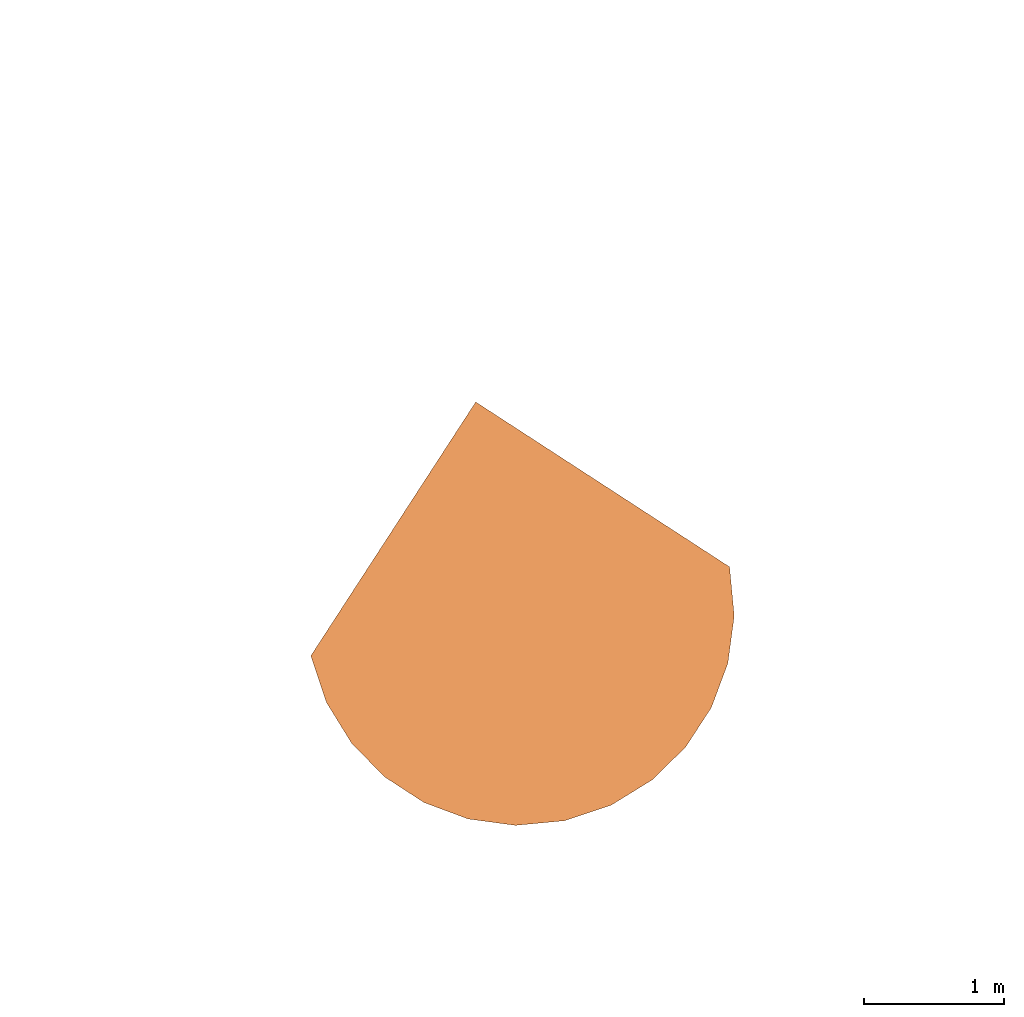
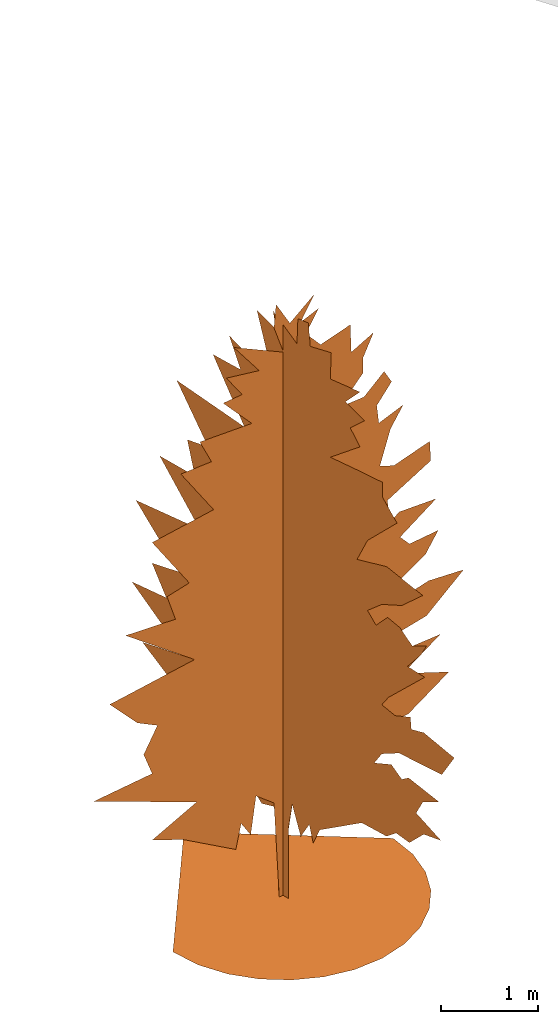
# One storey, part 13 of 17: 1 proxy.
"""IFC2X3 building model written with IfcOpenShell, lengths in centimetres."""

from ifc_helpers import new_model, entity, si_unit, converted_unit, derived_unit, direction, frame, origin, place, context, subcontext, project, spatial, face_set, surface_model, source, transform, mapped, material, type_object, type_shapes, element, save


model = new_model("IFC2X3")

# Units and contexts
model_context = context("Model", 3, precision=0.001, world=origin(), true_north=direction((6.12303176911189e-17, 1.0)))
body_context = subcontext(model_context, "Body", "Model", "MODEL_VIEW")
ifc_project = project(units=[si_unit("LENGTHUNIT", "METRE", prefix="CENTI"), si_unit("AREAUNIT", "SQUARE_METRE"), si_unit("VOLUMEUNIT", "CUBIC_METRE"), converted_unit("PLANEANGLEUNIT", "DEGREE", entity("IfcRatioMeasure", 0.0174532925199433), si_unit("PLANEANGLEUNIT", "RADIAN"), dimensions=[0, 0, 0, 0, 0, 0, 0]), si_unit("MASSUNIT", "GRAM", prefix="KILO"), derived_unit("MASSDENSITYUNIT", [(si_unit("MASSUNIT", "GRAM", prefix="KILO"), 1), (si_unit("LENGTHUNIT", "METRE"), -3)]), derived_unit("IONCONCENTRATIONUNIT", [(si_unit("MASSUNIT", "GRAM", prefix="KILO"), 1), (si_unit("LENGTHUNIT", "METRE"), -3)]), derived_unit("MOMENTOFINERTIAUNIT", [(si_unit("LENGTHUNIT", "METRE"), 4)]), si_unit("TIMEUNIT", "SECOND"), si_unit("FREQUENCYUNIT", "HERTZ"), si_unit("THERMODYNAMICTEMPERATUREUNIT", "DEGREE_CELSIUS"), derived_unit("THERMALTRANSMITTANCEUNIT", [(si_unit("MASSUNIT", "GRAM", prefix="KILO"), 1), (si_unit("THERMODYNAMICTEMPERATUREUNIT", "KELVIN"), -1), (si_unit("TIMEUNIT", "SECOND"), -3)]), derived_unit("THERMALCONDUCTANCEUNIT", [(si_unit("MASSUNIT", "GRAM", prefix="KILO"), 1), (si_unit("THERMODYNAMICTEMPERATUREUNIT", "KELVIN"), -1), (si_unit("TIMEUNIT", "SECOND"), -3), (si_unit("LENGTHUNIT", "METRE"), 1)]), derived_unit("VOLUMETRICFLOWRATEUNIT", [(si_unit("LENGTHUNIT", "METRE"), 3), (si_unit("TIMEUNIT", "SECOND"), -1)]), derived_unit("MASSFLOWRATEUNIT", [(si_unit("MASSUNIT", "GRAM", prefix="KILO"), 1), (si_unit("TIMEUNIT", "SECOND"), -1)]), derived_unit("ROTATIONALFREQUENCYUNIT", [(si_unit("TIMEUNIT", "SECOND"), -1)]), si_unit("ELECTRICCURRENTUNIT", "AMPERE"), si_unit("ELECTRICVOLTAGEUNIT", "VOLT"), si_unit("POWERUNIT", "WATT"), si_unit("FORCEUNIT", "NEWTON", prefix="KILO"), si_unit("ILLUMINANCEUNIT", "LUX"), si_unit("LUMINOUSFLUXUNIT", "LUMEN"), si_unit("LUMINOUSINTENSITYUNIT", "CANDELA"), derived_unit("USERDEFINED", [(si_unit("MASSUNIT", "GRAM", prefix="KILO"), -1), (si_unit("LENGTHUNIT", "METRE"), -2), (si_unit("TIMEUNIT", "SECOND"), 3), (si_unit("LUMINOUSFLUXUNIT", "LUMEN"), 1)]), derived_unit("USERDEFINED", [(si_unit("MASSUNIT", "GRAM", prefix="KILO"), 1), (si_unit("TIMEUNIT", "SECOND"), -3), (si_unit("LENGTHUNIT", "METRE"), 3), (si_unit("ELECTRICCURRENTUNIT", "AMPERE"), -2)]), derived_unit("SOUNDPOWERUNIT", [(si_unit("MASSUNIT", "GRAM", prefix="KILO"), 1), (si_unit("TIMEUNIT", "SECOND"), -3), (si_unit("LENGTHUNIT", "METRE"), 2)]), derived_unit("SOUNDPRESSUREUNIT", [(si_unit("MASSUNIT", "GRAM", prefix="KILO"), 1), (si_unit("LENGTHUNIT", "METRE"), -1), (si_unit("TIMEUNIT", "SECOND"), -2)]), derived_unit("LINEARVELOCITYUNIT", [(si_unit("LENGTHUNIT", "METRE"), 1), (si_unit("TIMEUNIT", "SECOND"), -1)]), si_unit("PRESSUREUNIT", "PASCAL"), derived_unit("USERDEFINED", [(si_unit("MASSUNIT", "GRAM", prefix="KILO"), 1), (si_unit("LENGTHUNIT", "METRE"), -2), (si_unit("TIMEUNIT", "SECOND"), -2)]), derived_unit("LINEARFORCEUNIT", [(si_unit("MASSUNIT", "GRAM", prefix="KILO"), 1), (si_unit("TIMEUNIT", "SECOND"), -2)]), derived_unit("PLANARFORCEUNIT", [(si_unit("MASSUNIT", "GRAM", prefix="KILO"), 1), (si_unit("LENGTHUNIT", "METRE"), -1), (si_unit("TIMEUNIT", "SECOND"), -2)]), derived_unit("SPECIFICHEATCAPACITYUNIT", [(si_unit("THERMODYNAMICTEMPERATUREUNIT", "KELVIN"), -1), (si_unit("LENGTHUNIT", "METRE"), 2), (si_unit("TIMEUNIT", "SECOND"), -2)]), derived_unit("HEATINGVALUEUNIT", [(si_unit("LENGTHUNIT", "METRE"), 2), (si_unit("TIMEUNIT", "SECOND"), -2)]), derived_unit("VAPORPERMEABILITYUNIT", [(si_unit("LENGTHUNIT", "METRE"), -1), (si_unit("TIMEUNIT", "SECOND"), 1)]), derived_unit("DYNAMICVISCOSITYUNIT", [(si_unit("MASSUNIT", "GRAM", prefix="KILO"), 1), (si_unit("TIMEUNIT", "SECOND"), -1), (si_unit("LENGTHUNIT", "METRE"), -1)]), derived_unit("THERMALEXPANSIONCOEFFICIENTUNIT", [(si_unit("THERMODYNAMICTEMPERATUREUNIT", "KELVIN"), -1)]), derived_unit("MODULUSOFELASTICITYUNIT", [(si_unit("MASSUNIT", "GRAM", prefix="KILO"), 1), (si_unit("LENGTHUNIT", "METRE"), -1), (si_unit("TIMEUNIT", "SECOND"), -2)]), derived_unit("ISOTHERMALMOISTURECAPACITYUNIT", [(si_unit("LENGTHUNIT", "METRE"), 3), (si_unit("MASSUNIT", "GRAM", prefix="KILO"), -1)]), derived_unit("MOISTUREDIFFUSIVITYUNIT", [(si_unit("TIMEUNIT", "SECOND"), -1), (si_unit("LENGTHUNIT", "METRE"), 2)])], contexts=[model_context])

# Site, building, storey
site_placement = place(None, frame((14083.8920177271, -6853.25409548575, 6900.0), z_axis=(0.0, 0.0, 1.0), x_axis=(0.978188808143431, 0.207717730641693, 0.0)))
site = spatial("IfcSite", under=ifc_project, at=site_placement, Name="Surface", CompositionType="ELEMENT")
building_placement = place(site_placement, origin())
building = spatial("IfcBuilding", under=site, at=building_placement, CompositionType="ELEMENT")
storey_placement = place(building_placement, origin())
storey = spatial("IfcBuildingStorey", under=building, at=storey_placement, Name="_Rez de chaussée Séjour", CompositionType="ELEMENT", Elevation=2.07727662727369e-10)

# Proxy
ifc_material = material(Name="<Unnamed>")
building_element_proxy_type = type_object("IfcBuildingElementProxyType", Name="PLANTE- Conifères divers:Pin en tige remontée_ Petit", PredefinedType="NOTDEFINED", material=ifc_material)
shared_shape = source(origin(), body_context, "Body", "SurfaceModel", [
    surface_model("IfcFaceBasedSurfaceModel", [(153.210415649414, 1.33923548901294e-05, 1.91891713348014e-05), (0.019647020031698, 153.190751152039, 1.91891713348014e-05), (-153.171086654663, 0.0, 1.91891713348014e-05), (149.160720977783, -35.1012767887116, 1.91891713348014e-05), (-149.121391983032, -35.1012767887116, 1.91891713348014e-05), (137.626643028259, -67.3359916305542, 1.91891713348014e-05), (-137.587314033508, -67.3359916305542, 1.91891713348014e-05), (-119.492931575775, -95.7810140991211, 1.91891713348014e-05), (119.532260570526, -95.7810140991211, 1.91891713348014e-05), (95.8006785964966, -119.512596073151, 1.91891713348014e-05), (-95.7613496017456, -119.512596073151, 1.91891713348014e-05), (-67.3163271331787, -137.606978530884, 1.91891713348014e-05), (-35.0816086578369, -149.141056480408, 1.91891713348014e-05), (0.0196738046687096, -153.190751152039, 1.91891713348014e-05), (35.1209449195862, -149.141056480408, 1.91891713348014e-05), (67.3556561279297, -137.606978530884, 1.91891713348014e-05), (9.49189337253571, -4.27712833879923e-05, 717.584920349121), (43.3818905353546, -4.40009734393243e-05, 738.213079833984), (24.2266553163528, -4.24200324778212e-05, 711.691210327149), (-120.174183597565, -1.03634767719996e-05, 173.870448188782), (-263.101789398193, -1.44034799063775e-05, 241.650511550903), (-182.060486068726, -1.42278241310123e-05, 238.703627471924), (-33.2391084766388, -4.04000330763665e-05, 677.800546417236), (-68.6025785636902, -4.31225342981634e-05, 723.47868850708), (0.650998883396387, -4.0839094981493e-05, 685.166201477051), (-123.121365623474, -2.11661107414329e-05, 355.109661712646), (-218.897380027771, -2.56452390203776e-05, 430.256586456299), (-149.643889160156, -2.49426453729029e-05, 418.469079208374), (164.206982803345, -1.37886981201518e-05, 231.336126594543), (218.725777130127, -1.35252296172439e-05, 226.915800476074), (170.101056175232, -1.21200094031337e-05, 203.340161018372), (161.260098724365, -2.43278627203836e-05, 408.153458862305), (212.832023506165, -2.38887072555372e-05, 400.784693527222), (162.733540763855, -2.23956743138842e-05, 375.737792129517), (-12.6103113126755, -4.3034723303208e-05, 722.003720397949), (-9.66334093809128, -4.47034717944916e-05, 750.000616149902), (133.26414768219, -3.17931487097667e-05, 533.400406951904), (167.154172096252, -3.22322140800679e-05, 540.766062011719), (149.472286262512, -3.09148065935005e-05, 518.662934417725), (49.275644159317, -4.27712833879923e-05, 717.584920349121), (31.5940671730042, -4.13659713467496e-05, 694.009905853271), (-56.8147515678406, -3.92581574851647e-05, 658.644273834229), (-78.91696352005, -4.11025314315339e-05, 689.588024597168), (94.95349193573, -3.82044047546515e-05, 640.963027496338), (125.89664680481, -3.88190921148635e-05, 651.278618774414), (111.161942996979, -3.73259690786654e-05, 626.228636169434), (-139.329504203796, -8.08000626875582e-06, 135.560112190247), (-182.060486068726, -9.22175711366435e-06, 154.715120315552), (-37.6594236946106, -8.51913141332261e-06, 142.927307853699), (-45.0269318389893, -5.79653576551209e-06, 97.2494491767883), (-58.2881899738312, -7.02609933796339e-06, 117.878219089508), (202.517638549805, -1.80043587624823e-05, 302.063044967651), (251.142374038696, -1.7477420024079e-05, 293.222102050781), (199.570449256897, -1.54574188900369e-05, 259.332077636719), (-43.5534934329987, -3.67112782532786e-05, 615.912986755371), (-83.3372751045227, -3.93462803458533e-05, 660.119300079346), (37.4878244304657, -6.41131755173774e-06, 107.563834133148), (28.6470958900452, -5.00609777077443e-06, 83.9881946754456), (13.9123030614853, -6.76263040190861e-06, 113.457900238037), (-202.688936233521, -1.86191396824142e-05, 312.377444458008), (-240.99959197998, -2.10782668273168e-05, 353.634664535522), (183.362310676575, -1.15930403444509e-05, 194.499218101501), (230.513604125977, -1.03634767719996e-05, 173.870448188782), (174.521367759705, -8.78263196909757e-06, 147.3479246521), (-96.5985368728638, -3.17053377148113e-05, 531.925438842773), (-142.276388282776, -3.56575289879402e-05, 598.231740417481), (-99.545413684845, -3.53940925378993e-05, 593.812998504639), (175.995115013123, -2.15174240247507e-05, 361.003400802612), (215.778893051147, -2.14295801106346e-05, 359.528403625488), (198.097007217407, -2.01122038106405e-05, 337.425276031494), (-115.753864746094, -3.73259690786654e-05, 626.228636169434), (152.419155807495, -1.08026339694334e-05, 181.237963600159), (-130.488561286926, -2.71382719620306e-05, 455.303487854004), (-182.060486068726, -3.1617526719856e-05, 530.453551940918), (146.525402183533, -8.78263196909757e-06, 147.3479246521), (-174.692970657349, -1.76530454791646e-05, 296.169305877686), (149.472286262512, -2.38887072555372e-05, 400.784693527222), (140.631343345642, -1.86191396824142e-05, 312.377444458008), (-65.6553892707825, -5.26956670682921e-06, 88.4088187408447), (3.59798237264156, -3.42522156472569e-06, 57.4656711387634), (5.07142145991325, 0.0, 0.0), (-5.24289945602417, 0.0, 0.0), (-12.6103113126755, -7.28956870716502e-06, 122.298843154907), (-161.431716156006, -2.6962646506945e-05, 452.356603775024), (150.945728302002, -1.76530454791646e-05, 296.169305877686), (162.733540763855, -1.52817622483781e-05, 256.385193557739), (52.2228334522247, -3.99609711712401e-05, 670.431810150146), (93.4800498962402, -4.03122186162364e-05, 676.325520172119), (153.89291759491, -2.80165534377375e-05, 470.040989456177), (203.991080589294, -2.84556794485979e-05, 477.406644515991), (205.464522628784, -2.6962646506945e-05, 452.356603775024), (145.05197467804, -2.56452390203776e-05, 430.256586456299), (112.63537776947, -3.43400279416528e-05, 576.128612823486), (140.631343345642, -3.54819035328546e-05, 595.284827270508), (150.945728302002, -3.44278389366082e-05, 577.603580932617), (130.316958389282, -3.3198152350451e-05, 556.975421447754), (134.73758972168, -2.85434921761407e-05, 478.881641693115), (80.2187881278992, -6.32347363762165e-06, 106.090399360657), (64.0106568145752, -5.44522291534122e-06, 91.3556955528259), (-193.848298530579, -1.59843558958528e-05, 268.173020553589), (111.161942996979, -3.61844053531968e-05, 607.072363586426), (78.7453533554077, -3.45156533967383e-05, 579.078607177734), (112.63537776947, -7.37741175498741e-06, 123.772285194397), (0.0196671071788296, -199.752342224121, 418.469079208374), (0.0196671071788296, -221.854554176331, 430.256586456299), (0.0196671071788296, -213.01361125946, 414.04719795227), (0.0196671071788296, -205.646095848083, 210.707356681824), (0.0196671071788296, -243.95676612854, 195.972660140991), (0.0196671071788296, -217.433922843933, 190.078906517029), (0.0196671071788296, -193.85828338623, 249.017997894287), (0.0196671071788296, -241.009562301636, 243.123939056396), (0.0196671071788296, -215.960480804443, 229.862684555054), (0.0196671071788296, -73.0331802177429, 689.588024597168), (0.0196671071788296, -118.711031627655, 696.956819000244), (0.0196671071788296, -96.6088269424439, 673.378665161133), (0.0196671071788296, 152.40918548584, 222.495183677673), (0.0196671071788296, 233.450503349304, 274.067108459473), (0.0196671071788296, 180.405151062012, 281.434594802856), (0.0196671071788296, -56.8247327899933, 111.984465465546), (0.0196671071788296, -46.5103514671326, 89.8822607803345), (0.0196671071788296, -40.616594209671, 110.511023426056), (0.0196671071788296, 143.56824256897, 165.029505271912), (0.0196671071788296, 217.242045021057, 206.287045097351), (0.0196671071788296, 65.4738015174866, 629.17549118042), (0.0196671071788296, 83.1556946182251, 663.066155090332), (0.0196671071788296, 13.9021365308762, 639.491140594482), (0.0196671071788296, -192.384841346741, 388.997186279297), (0.0196671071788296, -218.907364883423, 388.997186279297), (0.0196671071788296, -162.915448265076, 334.478391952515), (0.0196671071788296, 10.9551961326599, 708.744297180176), (0.0196671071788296, 15.3756058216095, 729.372456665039), (0.0196671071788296, -21.4613299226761, 707.269329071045), (0.0196671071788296, 128.833546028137, 394.890954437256), (0.0196671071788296, 190.719521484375, 455.303487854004), (0.0196671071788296, 136.200727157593, 458.250371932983), (0.0196671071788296, 115.572276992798, 505.403511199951), (0.0196671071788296, 164.197012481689, 564.341076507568), (0.0196671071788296, 59.5800478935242, 559.922334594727), (0.0196671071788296, 161.25012840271, 324.165881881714), (0.0196671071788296, 227.556429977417, 380.156563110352), (0.0196671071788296, -159.968258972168, 498.034774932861), (0.0196671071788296, -215.960480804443, 490.669119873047), (0.0196671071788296, -183.543898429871, 461.200366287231), (0.0196671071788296, -27.3552397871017, 88.4088187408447), (0.0196671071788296, -14.0939489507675, 122.298843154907), (0.0196671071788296, 22.7430176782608, 666.013010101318), (0.0196671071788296, 40.4247200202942, 717.584920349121), (0.0196671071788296, 118.519153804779, 98.7232036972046), (0.0196671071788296, 193.666405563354, 141.453865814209), (0.0196671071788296, 108.204776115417, 626.228636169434), (0.0196671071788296, -126.078220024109, 664.538041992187), (0.0196671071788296, -103.976022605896, 643.909882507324), (0.0196671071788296, -217.433922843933, 318.272142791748), (0.0196671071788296, -264.585216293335, 310.903987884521), (0.0196671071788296, -245.430193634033, 279.960847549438), (0.0196671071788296, -179.123586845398, 272.593651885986), (0.0196671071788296, -198.278914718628, 312.377444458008), (0.0196671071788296, 202.507348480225, 313.850261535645), (0.0196671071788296, -173.229513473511, 316.797116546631), (0.0196671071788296, -196.805152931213, 327.112765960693), (0.0196671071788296, -42.0900326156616, 714.638065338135), (0.0196671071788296, -74.5066222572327, 723.47868850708), (0.0196671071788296, -152.601063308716, 446.462864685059), (0.0196671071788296, -114.290407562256, 483.300383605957), (0.0196671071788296, 52.2125433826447, 114.931342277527), (0.0196671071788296, 56.6328586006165, 82.5147526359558), (0.0196671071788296, -117.237596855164, 596.759853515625), (0.0196671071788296, -154.074505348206, 601.178595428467), (0.0196671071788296, -154.074505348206, 582.025462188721), (0.0196671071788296, -130.498851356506, 427.309702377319), (0.0196671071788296, -22.9348300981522, 739.68496673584), (0.0196671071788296, -39.1431558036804, 742.631821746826), (0.0196671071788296, 147.988554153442, 498.034774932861), (0.0196671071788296, -118.711031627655, 627.700523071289), (0.0196671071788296, -73.0331802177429, 590.866085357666), (0.0196671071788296, -176.176702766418, 561.394221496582), (0.0196671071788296, -130.498851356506, 515.716021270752), (0.0196671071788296, -8.20003817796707, 88.4088187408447), (0.0196671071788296, -8.20003817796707, 1.91891713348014e-05), (0.0196671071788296, 6.53472376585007, 1.91891713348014e-05), (0.0196671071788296, 10.9551961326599, 79.5678758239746), (0.0196671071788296, 13.9021365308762, 104.616957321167), (0.0196671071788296, -183.543898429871, 241.650511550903), (0.0196671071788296, -195.33172542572, 167.976694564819), (0.0196671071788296, -174.703260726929, 169.450136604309), (0.0196671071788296, -152.601063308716, 319.74400062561), (0.0196671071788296, -152.601063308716, 257.858650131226), (0.0196671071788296, -180.597014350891, 431.728473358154), (0.0196671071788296, -161.441686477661, 434.675357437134), (0.0196671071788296, -143.760120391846, 415.522195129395), (0.0196671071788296, -167.335759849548, 251.964881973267), (0.0196671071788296, -140.813236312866, 240.177069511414), (0.0196671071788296, -159.968258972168, 157.662309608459), (0.0196671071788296, -121.657908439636, 154.715120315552), (0.0196671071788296, 33.0572155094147, 98.7232036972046)], [face_set([[[0, 1, 2]], [[3, 0, 2]], [[3, 2, 4]], [[5, 3, 4]], [[5, 4, 6]], [[5, 6, 7]], [[8, 5, 7]], [[9, 8, 7]], [[9, 7, 10]], [[9, 10, 11]], [[9, 11, 12]], [[9, 12, 13]], [[9, 13, 14]], [[9, 14, 15]], [[16, 17, 18]], [[19, 20, 21]], [[22, 23, 24]], [[25, 26, 27]], [[28, 29, 30]], [[31, 32, 33]], [[34, 35, 16]], [[36, 37, 38]], [[18, 39, 40]], [[41, 42, 22]], [[43, 44, 45]], [[46, 47, 19]], [[48, 49, 50]], [[51, 52, 53]], [[54, 55, 41]], [[56, 57, 58]], [[59, 60, 25]], [[61, 62, 63]], [[64, 65, 66]], [[67, 68, 69]], [[66, 70, 54]], [[71, 61, 63]], [[72, 73, 64]], [[71, 63, 74]], [[75, 59, 25]], [[24, 34, 16]], [[76, 31, 33]], [[67, 69, 77]], [[50, 78, 46]], [[79, 80, 81]], [[79, 81, 82]], [[58, 79, 82]], [[50, 46, 19]], [[27, 83, 72]], [[84, 51, 53]], [[84, 53, 85]], [[24, 16, 18]], [[24, 18, 40]], [[86, 87, 43]], [[88, 89, 90]], [[88, 90, 91]], [[92, 93, 94]], [[92, 94, 95]], [[48, 50, 19]], [[33, 67, 77]], [[96, 88, 91]], [[97, 98, 56]], [[64, 66, 54]], [[54, 41, 22]], [[54, 22, 24]], [[36, 38, 96]], [[24, 40, 86]], [[54, 24, 86]], [[54, 86, 43]], [[21, 99, 75]], [[54, 43, 45]], [[54, 45, 100]], [[54, 100, 101]], [[64, 54, 101]], [[72, 64, 101]], [[19, 21, 75]], [[19, 75, 25]], [[48, 19, 25]], [[28, 30, 71]], [[25, 27, 72]], [[25, 72, 101]], [[48, 25, 101]], [[48, 101, 92]], [[48, 92, 95]], [[48, 95, 36]], [[48, 36, 96]], [[48, 96, 91]], [[48, 91, 76]], [[48, 76, 33]], [[48, 33, 77]], [[48, 77, 84]], [[48, 84, 85]], [[48, 85, 28]], [[48, 28, 71]], [[82, 48, 71]], [[58, 82, 71]], [[56, 58, 71]], [[97, 56, 71]], [[102, 97, 71]], [[74, 102, 71]], [[103, 104, 105]], [[106, 107, 108]], [[109, 110, 111]], [[112, 113, 114]], [[115, 116, 117]], [[118, 119, 120]], [[121, 122, 115]], [[123, 124, 125]], [[126, 127, 128]], [[129, 130, 131]], [[132, 133, 134]], [[135, 136, 137]], [[138, 139, 132]], [[140, 141, 142]], [[120, 143, 144]], [[145, 146, 129]], [[147, 148, 121]], [[137, 149, 123]], [[114, 150, 151]], [[152, 153, 154]], [[152, 154, 155]], [[156, 152, 155]], [[103, 105, 126]], [[117, 157, 138]], [[158, 159, 156]], [[160, 161, 112]], [[158, 156, 155]], [[140, 142, 162]], [[163, 140, 162]], [[164, 165, 147]], [[166, 167, 168]], [[163, 162, 169]], [[170, 171, 160]], [[131, 170, 160]], [[134, 172, 135]], [[151, 173, 174]], [[168, 175, 176]], [[177, 178, 179]], [[177, 179, 180]], [[177, 180, 181]], [[144, 177, 181]], [[166, 168, 176]], [[174, 166, 176]], [[137, 123, 125]], [[164, 147, 121]], [[109, 111, 106]], [[182, 109, 106]], [[145, 129, 131]], [[106, 108, 183]], [[106, 183, 184]], [[185, 158, 155]], [[185, 155, 186]], [[182, 106, 184]], [[187, 103, 126]], [[188, 187, 126]], [[189, 188, 126]], [[189, 126, 128]], [[125, 145, 131]], [[190, 182, 184]], [[191, 190, 184]], [[191, 184, 192]], [[191, 192, 193]], [[174, 176, 163]], [[131, 160, 112]], [[125, 131, 112]], [[125, 112, 114]], [[125, 114, 151]], [[125, 151, 174]], [[137, 125, 174]], [[137, 174, 163]], [[135, 137, 163]], [[134, 135, 163]], [[132, 134, 163]], [[132, 163, 169]], [[138, 132, 169]], [[138, 169, 189]], [[138, 189, 128]], [[138, 128, 185]], [[138, 185, 186]], [[138, 186, 191]], [[138, 191, 193]], [[138, 193, 118]], [[138, 118, 120]], [[138, 120, 144]], [[117, 138, 144]], [[115, 117, 144]], [[121, 115, 144]], [[164, 121, 144]], [[164, 144, 181]], [[194, 164, 181]]])]),
])
type_shapes(building_element_proxy_type, [shared_shape])
proxy_placement = place(storey_placement, frame((-8753.66210651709, 8266.15614078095, 150.0)))
element("IfcBuildingElementProxy", 1, at=proxy_placement, inside=storey, type_object=building_element_proxy_type, material=ifc_material, Name="PLANTE- Conifères divers:Pin en tige remontée_ Petit", ObjectType="PLANTE- Conifères divers:Pin en tige remontée_ Petit", context=body_context, shape_type="MappedRepresentation", body=[
    mapped(shared_shape, transform((0.0, 0.0, 0.0), scale=1.0)),
])

save(model, "model.ifc")
